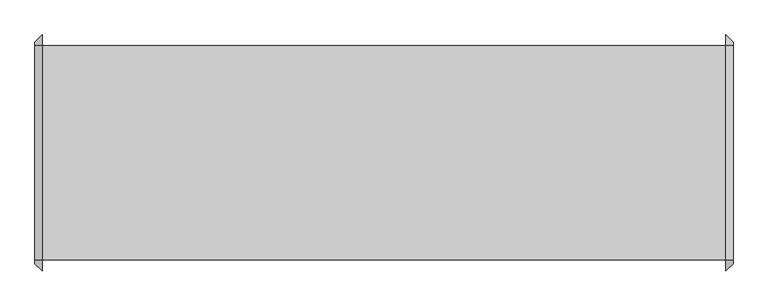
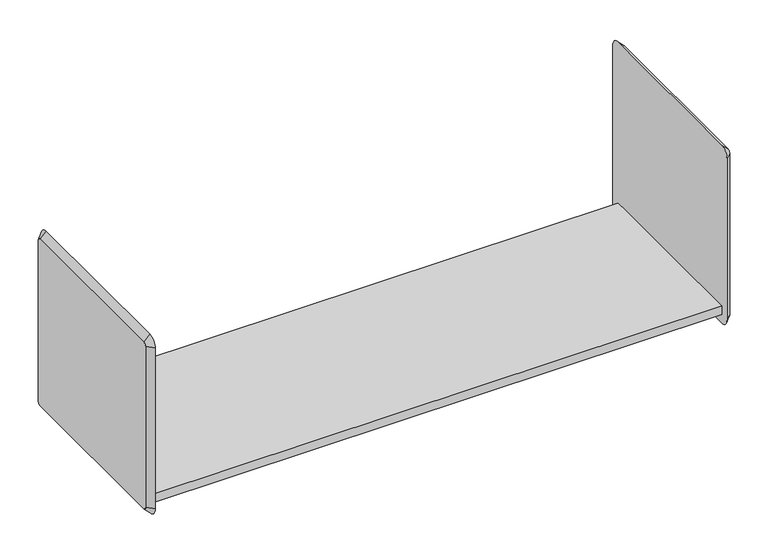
"""IFC4 building model written with IfcOpenShell, lengths in millimetres: furniture geometry, HermanMiller_ActionOffice_A3210_B-StyleShelf : 15-1/2H 16D 48W."""

from ifc_helpers import new_model, si_unit, frame, origin, place, context, project, spatial, polyline, circle_curve, outline, extrude, source, transform, mapped, element, save
from ifc_brep_helpers import plane_surface, revolved_surface, advanced_brep


def furniture_1d66e7f8(model_context):
    return source(origin(), model_context, "Body", "SolidModel", [
        extrude(outline(polyline([(472.9579955, 200.025), (472.9579955, 196.85), (-720.8420045, 196.85), (-720.8420045, 200.025), (472.9579955, 200.025)])), frame((0.0, 0.0, 749.3261913), z_axis=(0.0, 0.0, 1.0), x_axis=(1.0, 0.0, 0.0)), (0.0, 0.0, 1.0), 15.9097687),
        extrude(outline(polyline([(-174.625, 768.41096), (200.025, 768.41096), (200.025, 765.23596), (-171.45, 765.23596), (-171.45, 749.3261913), (-174.625, 749.3261913), (-174.625, 768.41096)])), frame((-720.8420045, 0.0, 0.0), z_axis=(1.0, 0.0, 0.0), x_axis=(0.0, 1.0, 0.0)), (0.0, 0.0, 1.0), 1193.8),
        advanced_brep(
        [(485.6579955, 200.025, 1111.31096), (485.6579955, -174.625, 1111.31096), (485.6579955, -180.975, 1104.96096), (485.6579955, -180.975, 749.36096), (485.6579955, -174.625, 743.01096), (485.6579955, 200.025, 743.01096), (485.6579955, 206.375, 749.36096), (485.6579955, 206.375, 1104.96096), (472.9579955, 200.025, 1124.01096), (472.9579955, 219.075, 1104.96096), (472.9579955, 219.075, 749.36096), (472.9579955, 200.025, 730.31096), (472.9579955, -174.625, 730.31096), (472.9579955, -193.675, 749.36096), (472.9579955, -193.675, 1104.96096), (472.9579955, -174.625, 1124.01096)],
        [
            (0, 1),
            (1, 2, circle_curve(frame((485.6579955, -174.625, 1104.96096), z_axis=(1.0, 0.0, 0.0), x_axis=(0.0, 0.0, 1.0)), 6.35)),
            (2, 3),
            (3, 4, circle_curve(frame((485.6579955, -174.625, 749.36096), z_axis=(1.0, 0.0, 0.0), x_axis=(0.0, -1.0, 0.0)), 6.35)),
            (4, 5),
            (5, 6, circle_curve(frame((485.6579955, 200.025, 749.36096), z_axis=(1.0, 0.0, 0.0), x_axis=(0.0, 0.0, -1.0)), 6.35)),
            (6, 7),
            (7, 0, circle_curve(frame((485.6579955, 200.025, 1104.96096), z_axis=(1.0, 0.0, 0.0), x_axis=(0.0, 1.0, 0.0)), 6.35)),
            (8, 9, circle_curve(frame((472.9579955, 200.025, 1104.96096), z_axis=(-1.0, 0.0, 0.0), x_axis=(0.0, 1.0, 0.0)), 19.05)),
            (9, 10),
            (10, 11, circle_curve(frame((472.9579955, 200.025, 749.36096), z_axis=(-1.0, 0.0, 0.0), x_axis=(0.0, 0.0, -1.0)), 19.05)),
            (11, 12),
            (12, 13, circle_curve(frame((472.9579955, -174.625, 749.36096), z_axis=(-1.0, 0.0, 0.0), x_axis=(0.0, -1.0, 0.0)), 19.05)),
            (13, 14),
            (14, 15, circle_curve(frame((472.9579955, -174.625, 1104.96096), z_axis=(-1.0, 0.0, 0.0), x_axis=(0.0, 0.0, 1.0)), 19.05)),
            (15, 8),
            (15, 1),
            (0, 8),
            (14, 2),
            (13, 3),
            (12, 4),
            (11, 5),
            (10, 6),
            (9, 7),
        ],
        [
            plane_surface(frame((485.6579955, 12.7, 927.16096), z_axis=(1.0, 0.0, 0.0), x_axis=(0.0, -1.0, 0.0))),
            plane_surface(frame((472.9579955, 12.7, 927.16096), z_axis=(-1.0, 0.0, 0.0), x_axis=(0.0, -1.0, 0.0))),
            plane_surface(frame((472.9579955, 12.7, 1124.01096), z_axis=(0.7071067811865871, 0.0, 0.707106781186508), x_axis=(0.0, -1.0, 0.0))),
            revolved_surface(polyline([(485.6579955, -174.625, 1111.3109599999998), (472.9579955, -174.625, 1124.01096)]), (492.0079955, -174.625, 1104.96096), (-1.0, 0.0, 0.0)),
            plane_surface(frame((472.9579955, -193.675, 927.16096), z_axis=(0.7071067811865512, -0.7071067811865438, 0.0), x_axis=(0.0, 0.0, -1.0))),
            revolved_surface(polyline([(485.6579955, -180.97499999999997, 749.36096), (472.9579955, -193.675, 749.36096)]), (492.0079955, -174.625, 749.36096), (-1.0, 0.0, 0.0)),
            plane_surface(frame((472.9579955, 12.7, 730.31096), z_axis=(0.7071067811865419, 0.0, -0.7071067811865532), x_axis=(0.0, 1.0, 0.0))),
            revolved_surface(polyline([(485.6579955, 200.025, 743.0109600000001), (472.9579955, 200.025, 730.31096)]), (492.0079955, 200.025, 749.36096), (-1.0, 0.0, 0.0)),
            plane_surface(frame((472.9579955, 219.075, 927.16096), z_axis=(0.7071067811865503, 0.7071067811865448, 0.0), x_axis=(0.0, 0.0, 1.0))),
            revolved_surface(polyline([(485.6579955, 206.37499999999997, 1104.96096), (472.9579955, 219.075, 1104.96096)]), (492.0079955, 200.025, 1104.96096), (-1.0, 0.0, 0.0)),
        ],
        [
            (0, [[1, 2, 3, 4, 5, 6, 7, 8]]),
            (1, [[9, 10, 11, 12, 13, 14, 15, 16]]),
            (2, [[-16, 17, -1, 18]]),
            (3, [[-15, 19, -2, -17]]),
            (4, [[-14, 20, -3, -19]]),
            (5, [[-13, 21, -4, -20]]),
            (6, [[-12, 22, -5, -21]]),
            (7, [[-11, 23, -6, -22]]),
            (8, [[-10, 24, -7, -23]]),
            (9, [[-9, -18, -8, -24]]),
        ],
    ),
        advanced_brep(
        [(-733.5420045, -174.625, 1111.31096), (-733.5420045, 200.025, 1111.31096), (-733.5420045, 206.375, 1104.96096), (-733.5420045, 206.375, 749.36096), (-733.5420045, 200.025, 743.01096), (-733.5420045, -174.625, 743.01096), (-733.5420045, -180.975, 749.36096), (-733.5420045, -180.975, 1104.96096), (-720.8420045, -174.625, 1124.01096), (-720.8420045, -193.675, 1104.96096), (-720.8420045, -193.675, 749.36096), (-720.8420045, -174.625, 730.31096), (-720.8420045, 200.025, 730.31096), (-720.8420045, 219.075, 749.36096), (-720.8420045, 219.075, 1104.96096), (-720.8420045, 200.025, 1124.01096)],
        [
            (0, 1),
            (1, 2, circle_curve(frame((-733.5420045, 200.025, 1104.96096), z_axis=(-1.0, -1.881161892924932e-12, -1.801225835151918e-12), x_axis=(-1.8012100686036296e-12, 0.0, 1.0)), 6.35)),
            (2, 3),
            (3, 4, circle_curve(frame((-733.5420045, 200.025, 749.36096), z_axis=(-1.0, 0.0, 0.0), x_axis=(0.0, 1.0, 0.0)), 6.35)),
            (4, 5),
            (5, 6, circle_curve(frame((-733.5420045, -174.625, 749.36096), z_axis=(-1.0, 0.0, 0.0), x_axis=(0.0, 0.0, -1.0)), 6.35)),
            (6, 7),
            (7, 0, circle_curve(frame((-733.5420045, -174.625, 1104.96096), z_axis=(-1.0, -1.8784973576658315e-12, 1.971756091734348e-12), x_axis=(1.8784586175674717e-12, -1.0, 0.0)), 6.35)),
            (8, 9, circle_curve(frame((-720.8420045, -174.625, 1104.96096), z_axis=(1.0, 1.8784973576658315e-12, -1.971756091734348e-12), x_axis=(1.8784586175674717e-12, -1.0, 0.0)), 19.05)),
            (9, 10),
            (10, 11, circle_curve(frame((-720.8420045, -174.625, 749.36096), z_axis=(1.0, 0.0, 0.0), x_axis=(0.0, 0.0, -1.0)), 19.05)),
            (11, 12),
            (12, 13, circle_curve(frame((-720.8420045, 200.025, 749.36096), z_axis=(1.0, 0.0, 0.0), x_axis=(0.0, 1.0, 0.0)), 19.05)),
            (13, 14),
            (14, 15, circle_curve(frame((-720.8420045, 200.025, 1104.96096), z_axis=(1.0, 1.881161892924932e-12, 1.801225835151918e-12), x_axis=(-1.8012100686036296e-12, 0.0, 1.0)), 19.05)),
            (15, 8),
            (15, 1),
            (0, 8),
            (14, 2),
            (13, 3),
            (12, 4),
            (11, 5),
            (10, 6),
            (9, 7),
        ],
        [
            plane_surface(frame((-733.5420045, 12.7, 927.16096), z_axis=(-1.0, 0.0, 0.0), x_axis=(0.0, -1.0, 0.0))),
            plane_surface(frame((-720.8420045, 12.7, 927.16096), z_axis=(1.0, 0.0, 0.0), x_axis=(0.0, -1.0, 0.0))),
            plane_surface(frame((-720.8420045, 12.7, 1124.01096), z_axis=(-0.7071067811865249, 0.0, 0.7071067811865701), x_axis=(0.0, 1.0, 0.0))),
            revolved_surface(polyline([(-733.5420045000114, 200.025, 1111.3109599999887), (-720.8420044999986, 200.025, 1124.0109600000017)]), (-739.8920045, 200.025, 1104.96096), (1.0, 1.881161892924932e-12, 1.801225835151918e-12)),
            plane_surface(frame((-720.8420045, 219.075, 927.16096), z_axis=(-0.7071067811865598, 0.7071067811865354, 0.0), x_axis=(0.0, 0.0, -1.0))),
            revolved_surface(polyline([(-733.5420045, 206.37500000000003, 749.36096), (-720.8420045, 219.075, 749.36096)]), (-739.8920045, 200.025, 749.36096), (1.0, 0.0, 0.0)),
            plane_surface(frame((-720.8420045, 12.7, 730.31096), z_axis=(-0.7071067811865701, 0.0, -0.7071067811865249), x_axis=(0.0, -1.0, 0.0))),
            revolved_surface(polyline([(-733.5420045, -174.625, 743.01096), (-720.8420045, -174.625, 730.31096)]), (-739.8920045, -174.625, 749.36096), (1.0, 0.0, 0.0)),
            plane_surface(frame((-720.8420045, -193.675, 927.16096), z_axis=(-0.7071067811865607, -0.7071067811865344, 0.0), x_axis=(0.0, 0.0, 1.0))),
            revolved_surface(polyline([(-733.5420045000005, -180.97499999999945, 1104.96096), (-720.8420044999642, -193.6750000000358, 1104.96096)]), (-739.8920045, -174.625, 1104.96096), (1.0, 1.8784973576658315e-12, -1.971756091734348e-12)),
        ],
        [
            (0, [[1, 2, 3, 4, 5, 6, 7, 8]]),
            (1, [[9, 10, 11, 12, 13, 14, 15, 16]]),
            (2, [[-16, 17, -1, 18]]),
            (3, [[-15, 19, -2, -17]]),
            (4, [[-14, 20, -3, -19]]),
            (5, [[-13, 21, -4, -20]]),
            (6, [[-12, 22, -5, -21]]),
            (7, [[-11, 23, -6, -22]]),
            (8, [[-10, 24, -7, -23]]),
            (9, [[-9, -18, -8, -24]]),
        ],
    ),
    ])


if __name__ == "__main__":
    model = new_model("IFC4")
    model_context = context("Model", 3, world=origin())
    ifc_project = project(units=[si_unit("LENGTHUNIT", "METRE", prefix="MILLI")], contexts=[model_context])
    site = spatial("IfcSite", under=ifc_project)
    building = spatial("IfcBuilding", under=site)
    placement = place(None, origin())
    furniture_shape = furniture_1d66e7f8(model_context)
    element("IfcFurniture", 1, ObjectType="HermanMiller_ActionOffice_A3210_B-StyleShelf : 15-1/2H 16D 48W", at=placement, inside=building, context=model_context, shape_type="MappedRepresentation", body=[
        mapped(furniture_shape, transform((0.0, 0.0, 0.0), x_axis=(1.0, 0.0, 0.0), y_axis=(0.0, 1.0, 0.0), z_axis=(0.0, 0.0, 1.0))),
    ])
    save(model, "model.ifc")
